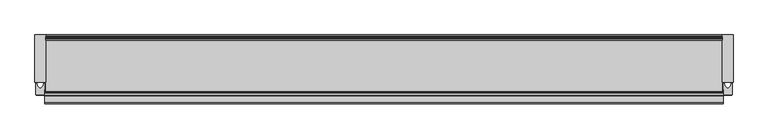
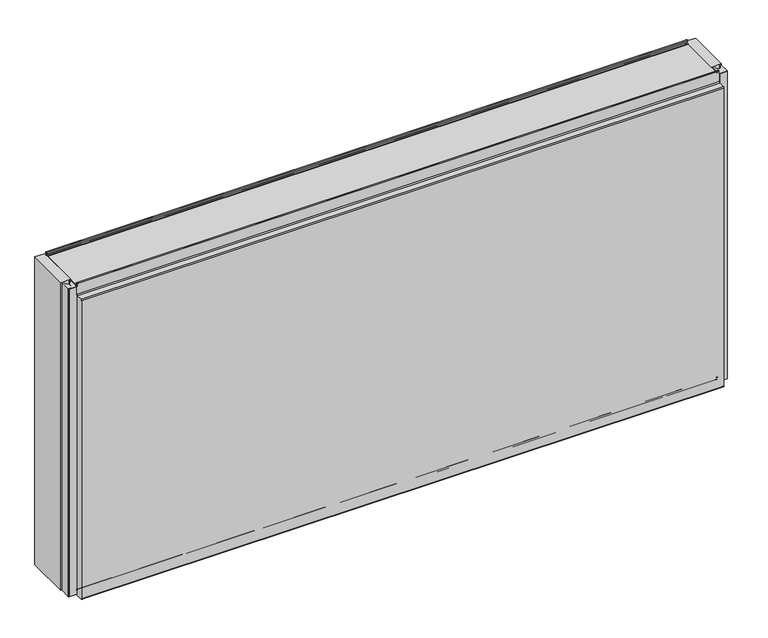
"""IFC4 building model written with IfcOpenShell, lengths in millimetres: plate geometry, Fronttop : Fronttop 200/1000."""

from ifc_helpers import new_model, si_unit, point, frame, frame_2d, origin, origin_with_axes, place, context, project, spatial, polyline, circle_curve, trimmed, segment, composite_curve, outline, extrude, source, transform, mapped, element, save
from ifc_brep_helpers import plane_surface, cylinder_surface, revolved_surface, advanced_brep


def plate_c9485209(model_context):
    return source(origin(), model_context, "Body", "SolidModel", [
        advanced_brep(
        [(-986.5, -174.0, 1008.0), (-986.5, -174.0, 1000.0), (-986.5, -175.0, 1000.0), (-986.5, -175.0, 1008.0), (-986.5, -170.0, 1008.0), (-986.5, -170.0, 1004.0), (-986.5, -167.0, 1001.0), (-986.5, -165.0, 1001.0), (-986.5, -165.0, 1000.0), (-986.5, -167.0, 1000.0), (-986.5, -171.0, 1004.0), (-986.5, -171.0, 1008.0), (986.5, -175.0, 1008.0), (986.5, -175.0, 1000.0), (986.5, -174.0, 1000.0), (986.5, -174.0, 1008.0), (986.5, -171.0, 1008.0), (986.5, -171.0, 1004.0), (986.5, -167.0, 1000.0), (986.5, -165.0, 1000.0), (986.5, -165.0, 1001.0), (986.5, -167.0, 1001.0), (986.5, -170.0, 1004.0), (986.5, -170.0, 1008.0), (-986.5, -167.0, 2.0), (-986.5, -165.0, 2.0), (986.5, -165.0, 2.0), (986.5, -167.0, 2.0), (986.5, -169.0, 4.0), (-986.5, -169.0, 4.0), (986.5, -169.0, 8.0), (-986.5, -169.0, 8.0), (986.5, -176.0, 8.0), (-986.5, -176.0, 8.0), (986.5, -176.0, 0.0), (-986.5, -176.0, 0.0), (986.5, -179.0, -3.0), (-986.5, -179.0, -3.0), (986.5, -175.0, -3.0), (987.5, -175.0, -3.0), (987.5, -197.0, -3.0), (986.5, -197.0, -3.0), (-986.5, -197.0, -3.0), (-987.5, -197.0, -3.0), (-987.5, -175.0, -3.0), (-986.5, -175.0, -3.0), (986.5, -200.0, 0.0), (-986.5, -200.0, 0.0), (987.5, -200.0, 0.0), (987.5, -200.0, 969.0), (986.5, -200.0, 969.0), (-986.5, -200.0, 969.0), (-987.5, -200.0, 969.0), (-987.5, -200.0, 0.0), (986.5, -197.0, 972.0), (-986.5, -197.0, 972.0), (987.5, -197.0, 972.0), (987.5, -178.0, 972.0), (986.5, -178.0, 972.0), (-986.5, -178.0, 972.0), (-987.5, -178.0, 972.0), (-987.5, -197.0, 972.0), (986.5, -175.0, 975.0), (-986.5, -175.0, 975.0), (987.5, -175.0, 975.0), (987.5, -175.0, 1000.0), (-987.5, -175.0, 1000.0), (-987.5, -175.0, 975.0), (986.5, -174.0, 975.0), (-986.5, -174.0, 975.0), (986.5, -178.0, 971.0), (-986.5, -178.0, 971.0), (986.5, -197.0, 971.0), (-986.5, -197.0, 971.0), (986.5, -199.0, 969.0), (-986.5, -199.0, 969.0), (986.5, -199.0, 0.0), (-986.5, -199.0, 0.0), (986.5, -197.0, -2.0), (-986.5, -197.0, -2.0), (986.5, -179.0, -2.0), (-986.5, -179.0, -2.0), (986.5, -177.0, 0.0), (-986.5, -177.0, 0.0), (986.5, -177.0, 8.0), (-986.5, -177.0, 8.0), (986.5, -168.0, 8.0), (-986.5, -168.0, 8.0), (986.5, -168.0, 4.0), (-986.5, -168.0, 4.0), (986.5, -167.0, 3.0), (-986.5, -167.0, 3.0), (986.5, -165.0, 3.0), (-986.5, -165.0, 3.0), (987.5, -175.0, 0.0), (987.5, -160.0, 0.0), (987.5, -160.0, 1000.0), (986.5, -160.0, 1000.0), (986.5, -160.0, 0.0), (986.5, -175.0, 0.0), (-987.5, -160.0, 1000.0), (-987.5, -160.0, 0.0), (-987.5, -175.0, 0.0), (-986.5, -160.0, 1000.0), (-986.5, -175.0, 0.0), (-986.5, -160.0, 0.0)],
        [
            (0, 1),
            (1, 2),
            (2, 3),
            (3, 4, circle_curve(frame((-986.5, -172.5, 1008.0), z_axis=(-1.0, 0.0, 0.0), x_axis=(0.0, 1.0, 0.0)), 2.5)),
            (4, 5),
            (5, 6, circle_curve(frame((-986.5, -167.0, 1004.0), z_axis=(1.0, 0.0, 0.0), x_axis=(0.0, 1.0, 0.0)), 3.0)),
            (6, 7),
            (7, 8),
            (8, 9),
            (9, 10, circle_curve(frame((-986.5, -167.0, 1004.0), z_axis=(-1.0, 0.0, 0.0), x_axis=(0.0, 1.0, 0.0)), 4.0)),
            (10, 11),
            (11, 0, circle_curve(frame((-986.5, -172.5, 1008.0), z_axis=(1.0, 0.0, 0.0), x_axis=(0.0, 1.0, 0.0)), 1.5)),
            (12, 13),
            (13, 14),
            (14, 15),
            (15, 16, circle_curve(frame((986.5, -172.5, 1008.0), z_axis=(-1.0, 0.0, 0.0), x_axis=(0.0, 1.0, 0.0)), 1.5)),
            (16, 17),
            (17, 18, circle_curve(frame((986.5, -167.0, 1004.0), z_axis=(1.0, 0.0, 0.0), x_axis=(0.0, 1.0, 0.0)), 4.0)),
            (18, 19),
            (19, 20),
            (20, 21),
            (21, 22, circle_curve(frame((986.5, -167.0, 1004.0), z_axis=(-1.0, 0.0, 0.0), x_axis=(0.0, 1.0, 0.0)), 3.0)),
            (22, 23),
            (23, 12, circle_curve(frame((986.5, -172.5, 1008.0), z_axis=(1.0, 0.0, 0.0), x_axis=(0.0, 1.0, 0.0)), 2.5)),
            (24, 25),
            (25, 26),
            (26, 27),
            (27, 24),
            (27, 28, circle_curve(frame((986.5, -167.0, 4.0), z_axis=(-1.0, 0.0, 0.0), x_axis=(0.0, 1.0, 0.0)), 2.0)),
            (28, 29),
            (29, 24, circle_curve(frame((-986.5, -167.0, 4.0), z_axis=(1.0, 0.0, 0.0), x_axis=(0.0, 1.0, 0.0)), 2.0)),
            (28, 30),
            (30, 31),
            (31, 29),
            (30, 32, circle_curve(frame((986.5, -172.5, 8.0), z_axis=(1.0, 0.0, 0.0), x_axis=(0.0, 1.0, 0.0)), 3.5)),
            (32, 33),
            (33, 31, circle_curve(frame((-986.5, -172.5, 8.0), z_axis=(-1.0, 0.0, 0.0), x_axis=(0.0, 1.0, 0.0)), 3.5)),
            (32, 34),
            (34, 35),
            (35, 33),
            (34, 36, circle_curve(frame((986.5, -179.0, 0.0), z_axis=(-1.0, 0.0, 0.0), x_axis=(0.0, 1.0, 0.0)), 3.0)),
            (36, 37),
            (37, 35, circle_curve(frame((-986.5, -179.0, 0.0), z_axis=(1.0, 0.0, 0.0), x_axis=(0.0, 1.0, 0.0)), 3.0)),
            (36, 38),
            (38, 39),
            (39, 40),
            (40, 41),
            (41, 42),
            (42, 43),
            (43, 44),
            (44, 45),
            (45, 37),
            (41, 46, circle_curve(frame((986.5, -197.0, 0.0), z_axis=(-1.0, 0.0, 0.0), x_axis=(0.0, 1.0, 0.0)), 3.0)),
            (46, 47),
            (47, 42, circle_curve(frame((-986.5, -197.0, 0.0), z_axis=(1.0, 0.0, 0.0), x_axis=(0.0, 1.0, 0.0)), 3.0)),
            (46, 48),
            (48, 49),
            (49, 50),
            (50, 51),
            (51, 52),
            (52, 53),
            (53, 47),
            (50, 54, circle_curve(frame((986.5, -197.0, 969.0), z_axis=(-1.0, 0.0, 0.0), x_axis=(0.0, 1.0, 0.0)), 3.0)),
            (54, 55),
            (55, 51, circle_curve(frame((-986.5, -197.0, 969.0), z_axis=(1.0, 0.0, 0.0), x_axis=(0.0, 1.0, 0.0)), 3.0)),
            (54, 56),
            (56, 57),
            (57, 58),
            (58, 59),
            (59, 60),
            (60, 61),
            (61, 55),
            (58, 62, circle_curve(frame((986.5, -178.0, 975.0), z_axis=(1.0, 0.0, 0.0), x_axis=(0.0, 1.0, 0.0)), 3.0)),
            (62, 63),
            (63, 59, circle_curve(frame((-986.5, -178.0, 975.0), z_axis=(-1.0, 0.0, 0.0), x_axis=(0.0, 1.0, 0.0)), 3.0)),
            (62, 64),
            (64, 65),
            (65, 13),
            (12, 3),
            (2, 66),
            (66, 67),
            (67, 63),
            (23, 4),
            (22, 5),
            (21, 6),
            (20, 7),
            (19, 8),
            (19, 18),
            (18, 9),
            (9, 8),
            (17, 10),
            (16, 11),
            (15, 0),
            (14, 68),
            (68, 69),
            (69, 1),
            (68, 70, circle_curve(frame((986.5, -178.0, 975.0), z_axis=(-1.0, 0.0, 0.0), x_axis=(0.0, 1.0, 0.0)), 4.0)),
            (70, 71),
            (71, 69, circle_curve(frame((-986.5, -178.0, 975.0), z_axis=(1.0, 0.0, 0.0), x_axis=(0.0, 1.0, 0.0)), 4.0)),
            (70, 72),
            (72, 73),
            (73, 71),
            (72, 74, circle_curve(frame((986.5, -197.0, 969.0), z_axis=(1.0, 0.0, 0.0), x_axis=(0.0, 1.0, 0.0)), 2.0)),
            (74, 75),
            (75, 73, circle_curve(frame((-986.5, -197.0, 969.0), z_axis=(-1.0, 0.0, 0.0), x_axis=(0.0, 1.0, 0.0)), 2.0)),
            (74, 76),
            (76, 77),
            (77, 75),
            (76, 78, circle_curve(frame((986.5, -197.0, 0.0), z_axis=(1.0, 0.0, 0.0), x_axis=(0.0, 1.0, 0.0)), 2.0)),
            (78, 79),
            (79, 77, circle_curve(frame((-986.5, -197.0, 0.0), z_axis=(-1.0, 0.0, 0.0), x_axis=(0.0, 1.0, 0.0)), 2.0)),
            (78, 80),
            (80, 81),
            (81, 79),
            (80, 82, circle_curve(frame((986.5, -179.0, 0.0), z_axis=(1.0, 0.0, 0.0), x_axis=(0.0, 1.0, 0.0)), 2.0)),
            (82, 83),
            (83, 81, circle_curve(frame((-986.5, -179.0, 0.0), z_axis=(-1.0, 0.0, 0.0), x_axis=(0.0, 1.0, 0.0)), 2.0)),
            (82, 84),
            (84, 85),
            (85, 83),
            (84, 86, circle_curve(frame((986.5, -172.5, 8.0), z_axis=(-1.0, 0.0, 0.0), x_axis=(0.0, 1.0, 0.0)), 4.5)),
            (86, 87),
            (87, 85, circle_curve(frame((-986.5, -172.5, 8.0), z_axis=(1.0, 0.0, 0.0), x_axis=(0.0, 1.0, 0.0)), 4.5)),
            (86, 88),
            (88, 89),
            (89, 87),
            (88, 90, circle_curve(frame((986.5, -167.0, 4.0), z_axis=(1.0, 0.0, 0.0), x_axis=(0.0, 1.0, 0.0)), 1.0)),
            (90, 91),
            (91, 89, circle_curve(frame((-986.5, -167.0, 4.0), z_axis=(-1.0, 0.0, 0.0), x_axis=(0.0, 1.0, 0.0)), 1.0)),
            (90, 92),
            (92, 93),
            (93, 91),
            (25, 93),
            (92, 26),
            (64, 57, circle_curve(frame((987.5, -178.0, 975.0), z_axis=(-1.0, 0.0, 0.0), x_axis=(0.0, -1.0, 0.0)), 3.0)),
            (56, 49, circle_curve(frame((987.5, -197.0, 969.0), z_axis=(1.0, 0.0, 0.0), x_axis=(0.0, -1.0, 0.0)), 3.0)),
            (48, 40, circle_curve(frame((987.5, -197.0, 0.0), z_axis=(1.0, 0.0, 0.0), x_axis=(0.0, -1.0, 0.0)), 3.0)),
            (39, 94),
            (94, 95),
            (95, 96),
            (96, 65),
            (14, 18),
            (19, 97),
            (97, 98),
            (98, 99),
            (99, 38),
            (96, 97),
            (95, 98),
            (94, 99),
            (66, 100),
            (100, 101),
            (101, 102),
            (102, 44),
            (43, 53, circle_curve(frame((-987.5, -197.0, 0.0), z_axis=(-1.0, 0.0, 0.0), x_axis=(0.0, -1.0, 0.0)), 3.0)),
            (52, 61, circle_curve(frame((-987.5, -197.0, 969.0), z_axis=(-1.0, 0.0, 0.0), x_axis=(0.0, -1.0, 0.0)), 3.0)),
            (60, 67, circle_curve(frame((-987.5, -178.0, 975.0), z_axis=(1.0, 0.0, 0.0), x_axis=(0.0, -1.0, 0.0)), 3.0)),
            (103, 8),
            (9, 1),
            (45, 104),
            (104, 105),
            (105, 103),
            (103, 100),
            (105, 101),
            (104, 102),
        ],
        [
            plane_surface(frame((-986.5, 0.0, 0.0), z_axis=(-1.0, 0.0, 0.0), x_axis=(0.0, 0.0, 1.0))),
            plane_surface(frame((986.5, 0.0, 0.0), z_axis=(1.0, 0.0, 0.0), x_axis=(0.0, 0.0, 1.0))),
            plane_surface(frame((-986.5, -167.0, 2.0), z_axis=(0.0, 0.0, -1.0), x_axis=(1.0, 0.0, 0.0))),
            cylinder_surface(frame((-986.5, -167.0, 4.0), z_axis=(-1.0, 0.0, 0.0), x_axis=(0.0, 1.0, 0.0)), 2.0),
            plane_surface(frame((-986.5, -169.0, 8.0), z_axis=(0.0, -1.0, 0.0), x_axis=(1.0, 0.0, 0.0))),
            revolved_surface(polyline([(986.5, -169.0, 8.0), (-986.5, -169.0, 8.0)]), (-986.5, -172.5, 8.0), (1.0, 0.0, 0.0)),
            plane_surface(frame((-986.5, -176.0, 0.0), z_axis=(0.0, 1.0, 0.0), x_axis=(1.0, 0.0, 0.0))),
            cylinder_surface(frame((-986.5, -179.0, 0.0), z_axis=(-1.0, 0.0, 0.0), x_axis=(0.0, 1.0, 0.0)), 3.0),
            plane_surface(frame((-986.5, -197.0, -3.0), z_axis=(0.0, 0.0, -1.0), x_axis=(1.0, 0.0, 0.0))),
            cylinder_surface(frame((-986.5, -197.0, 0.0), z_axis=(-1.0, 0.0, 0.0), x_axis=(0.0, 1.0, 0.0)), 3.0),
            plane_surface(frame((-986.5, -200.0, 969.0), z_axis=(0.0, -1.0, 0.0), x_axis=(1.0, 0.0, 0.0))),
            cylinder_surface(frame((-986.5, -197.0, 969.0), z_axis=(-1.0, 0.0, 0.0), x_axis=(0.0, 1.0, 0.0)), 3.0),
            plane_surface(frame((-986.5, -178.0, 972.0), z_axis=(0.0, 0.0, 1.0), x_axis=(1.0, 0.0, 0.0))),
            revolved_surface(polyline([(986.5, -175.0, 975.0), (-986.5, -175.0, 975.0)]), (-986.5, -178.0, 975.0), (1.0, 0.0, 0.0)),
            plane_surface(frame((-986.5, -175.0, 1008.0), z_axis=(0.0, -1.0, 0.0), x_axis=(1.0, 0.0, 0.0))),
            cylinder_surface(frame((-986.5, -172.5, 1008.0), z_axis=(-1.0, 0.0, 0.0), x_axis=(0.0, 1.0, 0.0)), 2.5),
            plane_surface(frame((-986.5, -170.0, 1004.0), z_axis=(0.0, 1.0, 0.0), x_axis=(1.0, 0.0, 0.0))),
            revolved_surface(polyline([(986.5, -164.0, 1004.0), (-986.5, -164.0, 1004.0)]), (-986.5, -167.0, 1004.0), (1.0, 0.0, 0.0)),
            plane_surface(frame((-986.5, -165.0, 1001.0), z_axis=(0.0, 0.0, 1.0), x_axis=(1.0, 0.0, 0.0))),
            plane_surface(frame((-986.5, -165.0, 1000.0), z_axis=(0.0, 1.0, 0.0), x_axis=(1.0, 0.0, 0.0))),
            plane_surface(frame((-986.5, -167.0, 1000.0), z_axis=(0.0, 0.0, -1.0), x_axis=(1.0, 0.0, 0.0))),
            cylinder_surface(frame((-986.5, -167.0, 1004.0), z_axis=(-1.0, 0.0, 0.0), x_axis=(0.0, 1.0, 0.0)), 4.0),
            plane_surface(frame((-986.5, -171.0, 1008.0), z_axis=(0.0, -1.0, 0.0), x_axis=(1.0, 0.0, 0.0))),
            revolved_surface(polyline([(986.5, -171.0, 1008.0), (-986.5, -171.0, 1008.0)]), (-986.5, -172.5, 1008.0), (1.0, 0.0, 0.0)),
            plane_surface(frame((-986.5, -174.0, 975.0), z_axis=(0.0, 1.0, 0.0), x_axis=(1.0, 0.0, 0.0))),
            cylinder_surface(frame((-986.5, -178.0, 975.0), z_axis=(-1.0, 0.0, 0.0), x_axis=(0.0, 1.0, 0.0)), 4.0),
            plane_surface(frame((-986.5, -197.0, 971.0), z_axis=(0.0, 0.0, -1.0), x_axis=(1.0, 0.0, 0.0))),
            revolved_surface(polyline([(986.5, -195.0, 969.0), (-986.5, -195.0, 969.0)]), (-986.5, -197.0, 969.0), (1.0, 0.0, 0.0)),
            plane_surface(frame((-986.5, -199.0, 0.0), z_axis=(0.0, 1.0, 0.0), x_axis=(1.0, 0.0, 0.0))),
            revolved_surface(polyline([(986.5, -195.0, 0.0), (-986.5, -195.0, 0.0)]), (-986.5, -197.0, 0.0), (1.0, 0.0, 0.0)),
            plane_surface(frame((-986.5, -179.0, -2.0), z_axis=(0.0, 0.0, 1.0), x_axis=(1.0, 0.0, 0.0))),
            revolved_surface(polyline([(986.5, -177.0, 0.0), (-986.5, -177.0, 0.0)]), (-986.5, -179.0, 0.0), (1.0, 0.0, 0.0)),
            plane_surface(frame((-986.5, -177.0, 8.0), z_axis=(0.0, -1.0, 0.0), x_axis=(1.0, 0.0, 0.0))),
            cylinder_surface(frame((-986.5, -172.5, 8.0), z_axis=(-1.0, 0.0, 0.0), x_axis=(0.0, 1.0, 0.0)), 4.5),
            plane_surface(frame((-986.5, -168.0, 4.0), z_axis=(0.0, 1.0, 0.0), x_axis=(1.0, 0.0, 0.0))),
            revolved_surface(polyline([(986.5, -166.0, 4.0), (-986.5, -166.0, 4.0)]), (-986.5, -167.0, 4.0), (1.0, 0.0, 0.0)),
            plane_surface(frame((-986.5, -165.0, 3.0), z_axis=(0.0, 0.0, 1.0), x_axis=(1.0, 0.0, 0.0))),
            plane_surface(frame((-986.5, -165.0, 2.0), z_axis=(0.0, 1.0, 0.0), x_axis=(1.0, 0.0, 0.0))),
            plane_surface(frame((987.5, -175.0, 1000.0), z_axis=(1.0, 0.0, 0.0), x_axis=(0.0, 1.0, 0.0))),
            plane_surface(frame((986.5, -175.0, 1000.0), z_axis=(-1.0, 0.0, 0.0), x_axis=(0.0, -1.0, 0.0))),
            plane_surface(frame((987.5, -175.0, 1000.0), z_axis=(0.0, 0.0, 1.0), x_axis=(-1.0, 0.0, 0.0))),
            plane_surface(frame((987.5, -160.0, 1000.0), z_axis=(0.0, 1.0, 0.0), x_axis=(-1.0, 0.0, 0.0))),
            plane_surface(frame((987.5, -160.0, 0.0), z_axis=(0.0, 0.0, -1.0), x_axis=(-1.0, 0.0, 0.0))),
            cylinder_surface(frame((986.5, -197.0, 0.0), z_axis=(1.0, 0.0, 0.0), x_axis=(0.0, -1.0, 0.0)), 3.0),
            cylinder_surface(frame((986.5, -197.0, 969.0), z_axis=(1.0, 0.0, 0.0), x_axis=(0.0, -1.0, 0.0)), 3.0),
            revolved_surface(polyline([(986.5, -181.0, 975.0), (987.5, -181.0, 975.0)]), (986.5, -178.0, 975.0), (-1.0, 0.0, 0.0)),
            plane_surface(frame((-987.5, -175.0, 1000.0), z_axis=(-1.0, 0.0, 0.0), x_axis=(0.0, -1.0, 0.0))),
            plane_surface(frame((-986.5, -175.0, 1000.0), z_axis=(1.0, 0.0, 0.0), x_axis=(0.0, 1.0, 0.0))),
            plane_surface(frame((-986.5, -175.0, 1000.0), z_axis=(0.0, 0.0, 1.0), x_axis=(-1.0, 0.0, 0.0))),
            plane_surface(frame((-986.5, -160.0, 1000.0), z_axis=(0.0, 1.0, 0.0), x_axis=(-1.0, 0.0, 0.0))),
            plane_surface(frame((-986.5, -160.0, 0.0), z_axis=(0.0, 0.0, -1.0), x_axis=(-1.0, 0.0, 0.0))),
            cylinder_surface(frame((-987.5, -197.0, 0.0), z_axis=(1.0, 0.0, 0.0), x_axis=(0.0, -1.0, 0.0)), 3.0),
            cylinder_surface(frame((-987.5, -197.0, 969.0), z_axis=(1.0, 0.0, 0.0), x_axis=(0.0, -1.0, 0.0)), 3.0),
            revolved_surface(polyline([(-987.5, -181.0, 975.0), (-986.5, -181.0, 975.0)]), (-987.5, -178.0, 975.0), (-1.0, 0.0, 0.0)),
            plane_surface(frame((987.5, -175.0, 0.0), z_axis=(0.0, 1.0, 0.0), x_axis=(-1.0, 0.0, 0.0))),
            plane_surface(frame((-986.5, -175.0, 0.0), z_axis=(0.0, 1.0, 0.0), x_axis=(-1.0, 0.0, 0.0))),
        ],
        [
            (0, [[1, 2, 3, 4, 5, 6, 7, 8, 9, 10, 11, 12]]),
            (1, [[13, 14, 15, 16, 17, 18, 19, 20, 21, 22, 23, 24]]),
            (2, [[25, 26, 27, 28]]),
            (3, [[29, 30, 31, -28]]),
            (4, [[32, 33, 34, -30]]),
            (5, [[35, 36, 37, -33]]),
            (6, [[38, 39, 40, -36]]),
            (7, [[41, 42, 43, -39]]),
            (8, [[44, 45, 46, 47, 48, 49, 50, 51, 52, -42]]),
            (9, [[53, 54, 55, -48]]),
            (10, [[56, 57, 58, 59, 60, 61, 62, -54]]),
            (11, [[63, 64, 65, -59]]),
            (12, [[66, 67, 68, 69, 70, 71, 72, -64]]),
            (13, [[73, 74, 75, -69]]),
            (14, [[76, 77, 78, -13, 79, -3, 80, 81, 82, -74]]),
            (15, [[-79, -24, 83, -4]]),
            (16, [[-83, -23, 84, -5]]),
            (17, [[-84, -22, 85, -6]]),
            (18, [[-85, -21, 86, -7]]),
            (19, [[-86, -20, 87, -8]]),
            (20, [[88, 89, 90, -87]]),
            (21, [[-89, -18, 91, -10]]),
            (22, [[-91, -17, 92, -11]]),
            (23, [[-92, -16, 93, -12]]),
            (24, [[-15, 94, 95, 96, -1, -93]]),
            (25, [[97, 98, 99, -95]]),
            (26, [[100, 101, 102, -98]]),
            (27, [[103, 104, 105, -101]]),
            (28, [[106, 107, 108, -104]]),
            (29, [[109, 110, 111, -107]]),
            (30, [[112, 113, 114, -110]]),
            (31, [[115, 116, 117, -113]]),
            (32, [[118, 119, 120, -116]]),
            (33, [[121, 122, 123, -119]]),
            (34, [[124, 125, 126, -122]]),
            (35, [[127, 128, 129, -125]]),
            (36, [[130, 131, 132, -128]]),
            (37, [[133, -131, 134, -26]]),
            (38, [[-77, 135, -67, 136, -57, 137, -46, 138, 139, 140, 141]]),
            (39, [[-44, -41, -38, -35, -32, -29, -27, -134, -130, -127, -124, -121, -118, -115, -112, -109, -106, -103, -100, -97, -94, 142, -88, 143, 144, 145, 146]]),
            (40, [[147, -143, -19, -142, -14, -78, -141]]),
            (41, [[148, -144, -147, -140]]),
            (42, [[149, -145, -148, -139]]),
            (43, [[-56, -53, -47, -137]]),
            (44, [[-66, -63, -58, -136]]),
            (45, [[-76, -73, -68, -135]]),
            (46, [[150, 151, 152, 153, -50, 154, -61, 155, -71, 156, -81]]),
            (47, [[157, -90, 158, -96, -99, -102, -105, -108, -111, -114, -117, -120, -123, -126, -129, -132, -133, -25, -31, -34, -37, -40, -43, -52, 159, 160, 161]]),
            (48, [[-80, -2, -158, -9, -157, 162, -150]]),
            (49, [[-162, -161, 163, -151]]),
            (50, [[-163, -160, 164, -152]]),
            (51, [[-49, -55, -62, -154]]),
            (52, [[-60, -65, -72, -155]]),
            (53, [[-70, -75, -82, -156]]),
            (54, [[-45, -146, -149, -138]]),
            (55, [[-164, -159, -51, -153]]),
        ],
    ),
        extrude(outline(composite_curve([segment(polyline([(-1012.5001545, -173.5), (-1012.5001545, -140.0), (-1009.75, -140.0), (-1009.75, -142.5)]), True, "CONTINUOUS"), segment(trimmed(circle_curve(frame_2d((-991.9661979, -139.3183984)), 18.0661619), [point((-1009.75, -142.5))], [point((-1000.0, -155.5))], True, "CARTESIAN"), True, "CONTINUOUS"), segment(trimmed(circle_curve(frame_2d((-1008.0338021, -139.3183984)), 18.0661619), [point((-1000.0, -155.5))], [point((-990.25, -142.5))], True, "CARTESIAN"), True, "CONTINUOUS"), segment(polyline([(-990.25, -142.5), (-990.25, -140.0), (-987.4998455, -140.0), (-987.4998455, -173.5), (-999.25, -173.5), (-999.25, -157.5), (-1000.75, -157.5), (-1000.75, -173.5), (-1012.5001545, -173.5)]), True, "CONTINUOUS")], self_intersect=False)), origin_with_axes(), (0.0, 0.0, 1.0), 1000.0),
        extrude(outline(polyline([(-984.5, 0.0), (-984.5, -138.0), (-1015.5, -138.0), (-1015.5, 0.0), (-984.5, 0.0)])), origin_with_axes(), (0.0, 0.0, 1.0), 1000.0),
        extrude(outline(polyline([(-1011.5051154, -175.0), (-1011.5051154, -173.5), (-1000.65, -173.5), (-1000.65, -159.0759655), (-999.3497504, -159.0759655), (-999.3497504, -173.5), (-988.4948846, -173.5), (-988.4948846, -175.0), (-1011.5051154, -175.0)])), origin_with_axes(), (0.0, 0.0, 1.0), 1000.0),
        extrude(outline(composite_curve([segment(polyline([(987.4998455, -173.5), (987.4998455, -140.0), (990.25, -140.0), (990.25, -142.5)]), True, "CONTINUOUS"), segment(trimmed(circle_curve(frame_2d((1008.0338021, -139.3183984)), 18.0661619), [point((990.25, -142.5))], [point((1000.0, -155.5))], True, "CARTESIAN"), True, "CONTINUOUS"), segment(trimmed(circle_curve(frame_2d((991.9661979, -139.3183984)), 18.0661619), [point((1000.0, -155.5))], [point((1009.75, -142.5))], True, "CARTESIAN"), True, "CONTINUOUS"), segment(polyline([(1009.75, -142.5), (1009.75, -140.0), (1012.5001545, -140.0), (1012.5001545, -173.5), (1000.75, -173.5), (1000.75, -157.5), (999.25, -157.5), (999.25, -173.5), (987.4998455, -173.5)]), True, "CONTINUOUS")], self_intersect=False)), origin_with_axes(), (0.0, 0.0, 1.0), 1000.0),
        extrude(outline(polyline([(1015.5, 0.0), (1015.5, -138.0), (984.5, -138.0), (984.5, 0.0), (1015.5, 0.0)])), origin_with_axes(), (0.0, 0.0, 1.0), 1000.0),
        extrude(outline(polyline([(988.4948846, -175.0), (988.4948846, -173.5), (999.35, -173.5), (999.35, -159.0759655), (1000.6502496, -159.0759655), (1000.6502496, -173.5), (1011.5051154, -173.5), (1011.5051154, -175.0), (988.4948846, -175.0)])), origin_with_axes(), (0.0, 0.0, 1.0), 1000.0),
        advanced_brep(
        [(-984.5, -13.0, 1001.0), (-984.5, -10.0, 1004.0), (-984.5, -10.0, 1008.0), (-984.5, -5.0, 1008.0), (-984.5, -5.0, 999.5), (-984.5, -2.2239212, 997.0152907), (-984.5, 0.0, 995.0), (-984.5, 0.0, -0.5), (-984.5, -4.0, -0.5), (-984.5, -4.0, 8.0), (-984.5, -11.0, 8.0), (-984.5, -11.0, 4.0), (-984.5, -13.0, 2.0), (-984.5, -15.0, 2.0), (-984.5, -15.0, 3.0), (-984.5, -13.0, 3.0), (-984.5, -12.0, 4.0), (-984.5, -12.0, 8.0), (-984.5, -3.0, 8.0), (-984.5, -3.0, -0.5), (-984.5, -1.0, -0.5), (-984.5, -1.0, 995.0), (-984.5, -2.1104315, 995.9938837), (-984.5, -6.0, 999.5), (-984.5, -6.0, 1008.0), (-984.5, -9.0, 1008.0), (-984.5, -9.0, 1004.0), (-984.5, -13.0, 1000.0), (-984.5, -15.0, 1000.0), (-984.5, -15.0, 1001.0), (984.5, -13.0, 1001.0), (984.5, -15.0, 1001.0), (984.5, -15.0, 1000.0), (984.5, -13.0, 1000.0), (984.5, -9.0, 1004.0), (984.5, -9.0, 1008.0), (984.5, -6.0, 1008.0), (984.5, -6.0, 999.5), (984.5, -2.1134897, 996.0214069), (984.5, -1.0, 995.0), (984.5, -1.0, -0.5), (984.5, -3.0, -0.5), (984.5, -3.0, 8.0), (984.5, -12.0, 8.0), (984.5, -12.0, 4.0), (984.5, -13.0, 3.0), (984.5, -15.0, 3.0), (984.5, -15.0, 2.0), (984.5, -13.0, 2.0), (984.5, -11.0, 4.0), (984.5, -11.0, 8.0), (984.5, -4.0, 8.0), (984.5, -4.0, -0.5), (984.5, 0.0, -0.5), (984.5, 0.0, 995.0), (984.5, -2.220863, 996.9877675), (984.5, -5.0, 999.5), (984.5, -5.0, 1008.0), (984.5, -10.0, 1008.0), (984.5, -10.0, 1004.0)],
        [
            (0, 1, circle_curve(frame((-984.5, -13.0, 1004.0), z_axis=(1.0, 0.0, 0.0), x_axis=(0.0, 1.0, 0.0)), 3.0)),
            (1, 2),
            (2, 3, circle_curve(frame((-984.5, -7.5, 1008.0), z_axis=(-1.0, 0.0, 0.0), x_axis=(0.0, 1.0, 0.0)), 2.5)),
            (3, 4),
            (4, 5, circle_curve(frame((-984.5, -2.5, 999.5), z_axis=(1.0, 0.0, 0.0), x_axis=(0.0, 1.0, 0.0)), 2.5)),
            (5, 6, circle_curve(frame((-984.5, -2.0, 995.0), z_axis=(-1.0, 0.0, 0.0), x_axis=(0.0, 1.0, 0.0)), 2.0)),
            (6, 7),
            (7, 8, circle_curve(frame((-984.5, -2.0, -0.5), z_axis=(-1.0, 0.0, 0.0), x_axis=(0.0, 1.0, 0.0)), 2.0)),
            (8, 9),
            (9, 10, circle_curve(frame((-984.5, -7.5, 8.0), z_axis=(1.0, 0.0, 0.0), x_axis=(0.0, 1.0, 0.0)), 3.5)),
            (10, 11),
            (11, 12, circle_curve(frame((-984.5, -13.0, 4.0), z_axis=(-1.0, 0.0, 0.0), x_axis=(0.0, 1.0, 0.0)), 2.0)),
            (12, 13),
            (13, 14),
            (14, 15),
            (15, 16, circle_curve(frame((-984.5, -13.0, 4.0), z_axis=(1.0, 0.0, 0.0), x_axis=(0.0, 1.0, 0.0)), 1.0)),
            (16, 17),
            (17, 18, circle_curve(frame((-984.5, -7.5, 8.0), z_axis=(-1.0, 0.0, 0.0), x_axis=(0.0, 1.0, 0.0)), 4.5)),
            (18, 19),
            (19, 20, circle_curve(frame((-984.5, -2.0, -0.5), z_axis=(1.0, 0.0, 0.0), x_axis=(0.0, 1.0, 0.0)), 1.0)),
            (20, 21),
            (21, 22, circle_curve(frame((-984.5, -2.0, 995.0), z_axis=(1.0, 0.0, 0.0), x_axis=(0.0, 1.0, 0.0)), 1.0)),
            (22, 23, circle_curve(frame((-984.5, -2.5, 999.5), z_axis=(-1.0, 0.0, 0.0), x_axis=(0.0, 1.0, 0.0)), 3.5)),
            (23, 24),
            (24, 25, circle_curve(frame((-984.5, -7.5, 1008.0), z_axis=(1.0, 0.0, 0.0), x_axis=(0.0, 1.0, 0.0)), 1.5)),
            (25, 26),
            (26, 27, circle_curve(frame((-984.5, -13.0, 1004.0), z_axis=(-1.0, 0.0, 0.0), x_axis=(0.0, 1.0, 0.0)), 4.0)),
            (27, 28),
            (28, 29),
            (29, 0),
            (30, 31),
            (31, 32),
            (32, 33),
            (33, 34, circle_curve(frame((984.5, -13.0, 1004.0), z_axis=(1.0, 0.0, 0.0), x_axis=(0.0, 1.0, 0.0)), 4.0)),
            (34, 35),
            (35, 36, circle_curve(frame((984.5, -7.5, 1008.0), z_axis=(-1.0, 0.0, 0.0), x_axis=(0.0, 1.0, 0.0)), 1.5)),
            (36, 37),
            (37, 38, circle_curve(frame((984.5, -2.5, 999.5), z_axis=(1.0, 0.0, 0.0), x_axis=(0.0, 1.0, 0.0)), 3.5)),
            (38, 39, circle_curve(frame((984.5, -2.0, 995.0), z_axis=(-1.0, 0.0, 0.0), x_axis=(0.0, 1.0, 0.0)), 1.0)),
            (39, 40),
            (40, 41, circle_curve(frame((984.5, -2.0, -0.5), z_axis=(-1.0, 0.0, 0.0), x_axis=(0.0, 1.0, 0.0)), 1.0)),
            (41, 42),
            (42, 43, circle_curve(frame((984.5, -7.5, 8.0), z_axis=(1.0, 0.0, 0.0), x_axis=(0.0, 1.0, 0.0)), 4.5)),
            (43, 44),
            (44, 45, circle_curve(frame((984.5, -13.0, 4.0), z_axis=(-1.0, 0.0, 0.0), x_axis=(0.0, 1.0, 0.0)), 1.0)),
            (45, 46),
            (46, 47),
            (47, 48),
            (48, 49, circle_curve(frame((984.5, -13.0, 4.0), z_axis=(1.0, 0.0, 0.0), x_axis=(0.0, 1.0, 0.0)), 2.0)),
            (49, 50),
            (50, 51, circle_curve(frame((984.5, -7.5, 8.0), z_axis=(-1.0, 0.0, 0.0), x_axis=(0.0, 1.0, 0.0)), 3.5)),
            (51, 52),
            (52, 53, circle_curve(frame((984.5, -2.0, -0.5), z_axis=(1.0, 0.0, 0.0), x_axis=(0.0, 1.0, 0.0)), 2.0)),
            (53, 54),
            (54, 55, circle_curve(frame((984.5, -2.0, 995.0), z_axis=(1.0, 0.0, 0.0), x_axis=(0.0, 1.0, 0.0)), 2.0)),
            (55, 56, circle_curve(frame((984.5, -2.5, 999.5), z_axis=(-1.0, 0.0, 0.0), x_axis=(0.0, 1.0, 0.0)), 2.5)),
            (56, 57),
            (57, 58, circle_curve(frame((984.5, -7.5, 1008.0), z_axis=(1.0, 0.0, 0.0), x_axis=(0.0, 1.0, 0.0)), 2.5)),
            (58, 59),
            (59, 30, circle_curve(frame((984.5, -13.0, 1004.0), z_axis=(-1.0, 0.0, 0.0), x_axis=(0.0, 1.0, 0.0)), 3.0)),
            (29, 31),
            (30, 0),
            (28, 32),
            (27, 33),
            (26, 34),
            (25, 35),
            (24, 36),
            (23, 37),
            (22, 38),
            (21, 39),
            (20, 40),
            (19, 41),
            (18, 42),
            (17, 43),
            (16, 44),
            (15, 45),
            (14, 46),
            (13, 47),
            (12, 48),
            (11, 49),
            (10, 50),
            (9, 51),
            (8, 52),
            (7, 53),
            (6, 54),
            (5, 55),
            (4, 56),
            (3, 57),
            (2, 58),
            (1, 59),
        ],
        [
            plane_surface(frame((-984.5, 0.0, 0.0), z_axis=(-1.0, 0.0, 0.0), x_axis=(0.0, 0.0, 1.0))),
            plane_surface(frame((984.5, 0.0, 0.0), z_axis=(1.0, 0.0, 0.0), x_axis=(0.0, 0.0, 1.0))),
            plane_surface(frame((-984.5, -13.0, 1001.0), z_axis=(0.0, 0.0, 1.0), x_axis=(1.0, 0.0, 0.0))),
            plane_surface(frame((-984.5, -15.0, 1001.0), z_axis=(0.0, -1.0, 0.0), x_axis=(1.0, 0.0, 0.0))),
            plane_surface(frame((-984.5, -15.0, 1000.0), z_axis=(0.0, 0.0, -1.0), x_axis=(1.0, 0.0, 0.0))),
            cylinder_surface(frame((-984.5, -13.0, 1004.0), z_axis=(-1.0, 0.0, 0.0), x_axis=(0.0, 1.0, 0.0)), 4.0),
            plane_surface(frame((-984.5, -9.0, 1004.0), z_axis=(0.0, 1.0, 0.0), x_axis=(1.0, 0.0, 0.0))),
            revolved_surface(polyline([(984.5, -6.0, 1008.0), (-984.5, -6.0, 1008.0)]), (-984.5, -7.5, 1008.0), (1.0, 0.0, 0.0)),
            plane_surface(frame((-984.5, -6.0, 1008.0), z_axis=(0.0, -1.0, 0.0), x_axis=(1.0, 0.0, 0.0))),
            cylinder_surface(frame((-984.5, -2.5, 999.5), z_axis=(-1.0, 0.0, 0.0), x_axis=(0.0, 1.0, 0.0)), 3.5),
            revolved_surface(polyline([(984.5, -1.0, 995.0), (-984.5, -1.0, 995.0)]), (-984.5, -2.0, 995.0), (1.0, 0.0, 0.0)),
            plane_surface(frame((-984.5, -1.0, 995.0), z_axis=(0.0, -1.0, 0.0), x_axis=(1.0, 0.0, 0.0))),
            revolved_surface(polyline([(984.5, -1.0, -0.5), (-984.5, -1.0, -0.5)]), (-984.5, -2.0, -0.5), (1.0, 0.0, 0.0)),
            plane_surface(frame((-984.5, -3.0, -0.5), z_axis=(0.0, 1.0, 0.0), x_axis=(1.0, 0.0, 0.0))),
            cylinder_surface(frame((-984.5, -7.5, 8.0), z_axis=(-1.0, 0.0, 0.0), x_axis=(0.0, 1.0, 0.0)), 4.5),
            plane_surface(frame((-984.5, -12.0, 8.0), z_axis=(0.0, -1.0, 0.0), x_axis=(1.0, 0.0, 0.0))),
            revolved_surface(polyline([(984.5, -12.0, 4.0), (-984.5, -12.0, 4.0)]), (-984.5, -13.0, 4.0), (1.0, 0.0, 0.0)),
            plane_surface(frame((-984.5, -13.0, 3.0), z_axis=(0.0, 0.0, 1.0), x_axis=(1.0, 0.0, 0.0))),
            plane_surface(frame((-984.5, -15.0, 3.0), z_axis=(0.0, -1.0, 0.0), x_axis=(1.0, 0.0, 0.0))),
            plane_surface(frame((-984.5, -15.0, 2.0), z_axis=(0.0, 0.0, -1.0), x_axis=(1.0, 0.0, 0.0))),
            cylinder_surface(frame((-984.5, -13.0, 4.0), z_axis=(-1.0, 0.0, 0.0), x_axis=(0.0, 1.0, 0.0)), 2.0),
            plane_surface(frame((-984.5, -11.0, 4.0), z_axis=(0.0, 1.0, 0.0), x_axis=(1.0, 0.0, 0.0))),
            revolved_surface(polyline([(984.5, -4.0, 8.0), (-984.5, -4.0, 8.0)]), (-984.5, -7.5, 8.0), (1.0, 0.0, 0.0)),
            plane_surface(frame((-984.5, -4.0, 8.0), z_axis=(0.0, -1.0, 0.0), x_axis=(1.0, 0.0, 0.0))),
            cylinder_surface(frame((-984.5, -2.0, -0.5), z_axis=(-1.0, 0.0, 0.0), x_axis=(0.0, 1.0, 0.0)), 2.0),
            plane_surface(frame((-984.5, 0.0, -0.5), z_axis=(0.0, 1.0, 0.0), x_axis=(1.0, 0.0, 0.0))),
            cylinder_surface(frame((-984.5, -2.0, 995.0), z_axis=(-1.0, 0.0, 0.0), x_axis=(0.0, 1.0, 0.0)), 2.0),
            revolved_surface(polyline([(984.5, 0.0, 999.5), (-984.5, 0.0, 999.5)]), (-984.5, -2.5, 999.5), (1.0, 0.0, 0.0)),
            plane_surface(frame((-984.5, -5.0, 999.5), z_axis=(0.0, 1.0, 0.0), x_axis=(1.0, 0.0, 0.0))),
            cylinder_surface(frame((-984.5, -7.5, 1008.0), z_axis=(-1.0, 0.0, 0.0), x_axis=(0.0, 1.0, 0.0)), 2.5),
            plane_surface(frame((-984.5, -10.0, 1008.0), z_axis=(0.0, -1.0, 0.0), x_axis=(1.0, 0.0, 0.0))),
            revolved_surface(polyline([(984.5, -10.0, 1004.0), (-984.5, -10.0, 1004.0)]), (-984.5, -13.0, 1004.0), (1.0, 0.0, 0.0)),
        ],
        [
            (0, [[1, 2, 3, 4, 5, 6, 7, 8, 9, 10, 11, 12, 13, 14, 15, 16, 17, 18, 19, 20, 21, 22, 23, 24, 25, 26, 27, 28, 29, 30]]),
            (1, [[31, 32, 33, 34, 35, 36, 37, 38, 39, 40, 41, 42, 43, 44, 45, 46, 47, 48, 49, 50, 51, 52, 53, 54, 55, 56, 57, 58, 59, 60]]),
            (2, [[61, -31, 62, -30]]),
            (3, [[63, -32, -61, -29]]),
            (4, [[64, -33, -63, -28]]),
            (5, [[65, -34, -64, -27]]),
            (6, [[66, -35, -65, -26]]),
            (7, [[67, -36, -66, -25]]),
            (8, [[68, -37, -67, -24]]),
            (9, [[69, -38, -68, -23]]),
            (10, [[70, -39, -69, -22]]),
            (11, [[71, -40, -70, -21]]),
            (12, [[72, -41, -71, -20]]),
            (13, [[73, -42, -72, -19]]),
            (14, [[74, -43, -73, -18]]),
            (15, [[75, -44, -74, -17]]),
            (16, [[76, -45, -75, -16]]),
            (17, [[77, -46, -76, -15]]),
            (18, [[78, -47, -77, -14]]),
            (19, [[79, -48, -78, -13]]),
            (20, [[80, -49, -79, -12]]),
            (21, [[81, -50, -80, -11]]),
            (22, [[82, -51, -81, -10]]),
            (23, [[83, -52, -82, -9]]),
            (24, [[84, -53, -83, -8]]),
            (25, [[85, -54, -84, -7]]),
            (26, [[86, -55, -85, -6]]),
            (27, [[87, -56, -86, -5]]),
            (28, [[88, -57, -87, -4]]),
            (29, [[89, -58, -88, -3]]),
            (30, [[90, -59, -89, -2]]),
            (31, [[-62, -60, -90, -1]]),
        ],
    ),
        extrude(outline(composite_curve([segment(polyline([(-15.0, 3.0), (-15.0, 0.0), (-165.0, 0.0), (-165.0, 3.0), (-167.0, 3.0)]), True, "CONTINUOUS"), segment(trimmed(circle_curve(frame_2d((-167.0, 4.0)), 1.0), [point((-167.0, 3.0))], [point((-168.0, 4.0))], False, "CARTESIAN"), True, "CONTINUOUS"), segment(polyline([(-168.0, 4.0), (-168.0, 8.0)]), True, "CONTINUOUS"), segment(trimmed(circle_curve(frame_2d((-172.5, 8.0)), 4.5), [point((-168.0, 8.0))], [point((-177.0, 8.0))], True, "CARTESIAN"), True, "CONTINUOUS"), segment(polyline([(-177.0, 8.0), (-177.0, 0.0)]), True, "CONTINUOUS"), segment(trimmed(circle_curve(frame_2d((-179.0, 0.0)), 2.0), [point((-177.0, 0.0))], [point((-179.0, -2.0))], False, "CARTESIAN"), True, "CONTINUOUS"), segment(polyline([(-179.0, -2.0), (-197.0, -2.0)]), True, "CONTINUOUS"), segment(trimmed(circle_curve(frame_2d((-197.0, 0.0)), 2.0), [point((-197.0, -2.0))], [point((-199.0, 0.0))], False, "CARTESIAN"), True, "CONTINUOUS"), segment(polyline([(-199.0, 0.0), (-199.0, 969.0)]), True, "CONTINUOUS"), segment(trimmed(circle_curve(frame_2d((-197.0, 969.0)), 2.0), [point((-199.0, 969.0))], [point((-197.0, 971.0))], False, "CARTESIAN"), True, "CONTINUOUS"), segment(polyline([(-197.0, 971.0), (-178.0, 971.0)]), True, "CONTINUOUS"), segment(trimmed(circle_curve(frame_2d((-178.0, 975.0)), 4.0), [point((-178.0, 971.0))], [point((-174.0, 975.0))], True, "CARTESIAN"), True, "CONTINUOUS"), segment(polyline([(-174.0, 975.0), (-174.0, 1008.0)]), True, "CONTINUOUS"), segment(trimmed(circle_curve(frame_2d((-172.5, 1008.0)), 1.5), [point((-174.0, 1008.0))], [point((-171.0, 1008.0))], False, "CARTESIAN"), True, "CONTINUOUS"), segment(polyline([(-171.0, 1008.0), (-171.0, 1004.0)]), True, "CONTINUOUS"), segment(trimmed(circle_curve(frame_2d((-167.0, 1004.0)), 4.0), [point((-171.0, 1004.0))], [point((-167.0, 1000.0))], True, "CARTESIAN"), True, "CONTINUOUS"), segment(polyline([(-167.0, 1000.0), (-13.0, 1000.0)]), True, "CONTINUOUS"), segment(trimmed(circle_curve(frame_2d((-13.0, 1004.0)), 4.0), [point((-13.0, 1000.0))], [point((-9.0, 1004.0))], True, "CARTESIAN"), True, "CONTINUOUS"), segment(polyline([(-9.0, 1004.0), (-9.0, 1008.0)]), True, "CONTINUOUS"), segment(trimmed(circle_curve(frame_2d((-7.5, 1008.0)), 1.5), [point((-9.0, 1008.0))], [point((-6.0, 1008.0))], False, "CARTESIAN"), True, "CONTINUOUS"), segment(polyline([(-6.0, 1008.0), (-6.0, 999.5)]), True, "CONTINUOUS"), segment(trimmed(circle_curve(frame_2d((-2.5, 999.5)), 3.5), [point((-6.0, 999.5))], [point((-2.1111111, 996.021672))], True, "CARTESIAN"), True, "CONTINUOUS"), segment(trimmed(circle_curve(frame_2d((-2.0, 995.0278643)), 1.0), [point((-2.1111111, 996.021672))], [point((-1.0, 995.0278643))], False, "CARTESIAN"), True, "CONTINUOUS"), segment(polyline([(-1.0, 995.0278643), (-1.0, -0.5)]), True, "CONTINUOUS"), segment(trimmed(circle_curve(frame_2d((-2.0, -0.5)), 1.0), [point((-1.0, -0.5))], [point((-3.0, -0.5))], False, "CARTESIAN"), True, "CONTINUOUS"), segment(polyline([(-3.0, -0.5), (-3.0, 8.0)]), True, "CONTINUOUS"), segment(trimmed(circle_curve(frame_2d((-7.5, 8.0)), 4.5), [point((-3.0, 8.0))], [point((-12.0, 8.0))], True, "CARTESIAN"), True, "CONTINUOUS"), segment(polyline([(-12.0, 8.0), (-12.0, 4.0)]), True, "CONTINUOUS"), segment(trimmed(circle_curve(frame_2d((-13.0, 4.0)), 1.0), [point((-12.0, 4.0))], [point((-13.0, 3.0))], False, "CARTESIAN"), True, "CONTINUOUS"), segment(polyline([(-13.0, 3.0), (-15.0, 3.0)]), True, "CONTINUOUS")], self_intersect=False)), frame((-984.5, 0.0, 0.0), z_axis=(1.0, 0.0, 0.0), x_axis=(0.0, 1.0, 0.0)), (0.0, 0.0, 1.0), 1969.0),
    ])


if __name__ == "__main__":
    model = new_model("IFC4")
    model_context = context("Model", 3, world=origin())
    ifc_project = project(units=[si_unit("LENGTHUNIT", "METRE", prefix="MILLI")], contexts=[model_context])
    site = spatial("IfcSite", under=ifc_project)
    building = spatial("IfcBuilding", under=site)
    placement = place(None, origin())
    plate_shape = plate_c9485209(model_context)
    element("IfcPlate", 1, ObjectType="Fronttop : Fronttop 200/1000", at=placement, inside=building, context=model_context, shape_type="MappedRepresentation", body=[
        mapped(plate_shape, transform((0.0, 0.0, 0.0), x_axis=(1.0, 0.0, 0.0), y_axis=(0.0, 1.0, 0.0), z_axis=(0.0, 0.0, 1.0))),
    ])
    save(model, "model.ifc")
